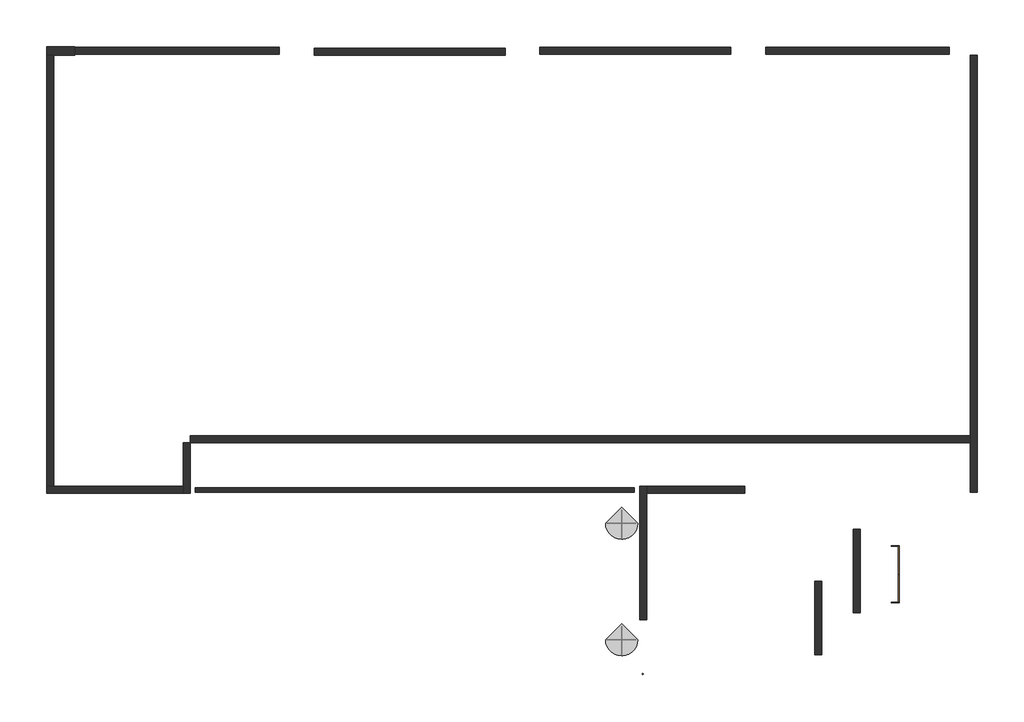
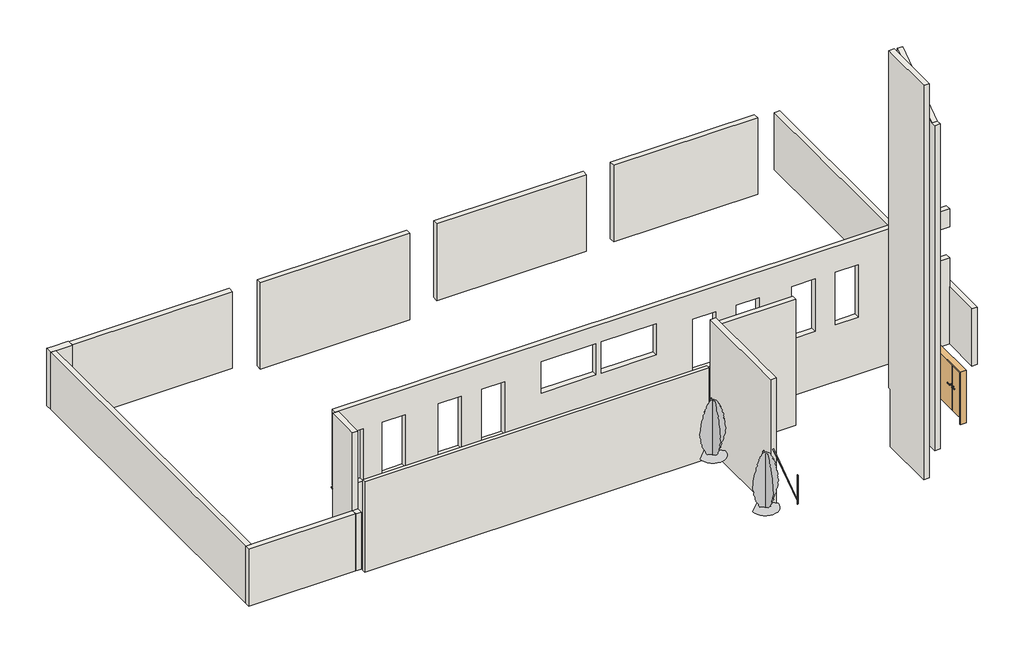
# One storey: 15 walls, 2 geographic elements, 2 proxies, 1 door.
"""IFC4 building model written with IfcOpenShell, lengths in millimetres."""

from ifc_helpers import new_model, si_unit, frame, origin, place, context, project, spatial, polyline, outline, extrude, faceted_brep, transform, mapped, element, save
from components import generic_models_c4b8308b, generic_models_6d567278, door_3436bc48, door_42131a66, geographic_element_770d22dd

model = new_model("IFC4")

# Units and contexts
model_context = context("Model", 3, world=origin())
ifc_project = project(units=[si_unit("LENGTHUNIT", "METRE", prefix="MILLI")], contexts=[model_context])

# Site, building, storey
site = spatial("IfcSite", under=ifc_project)
building = spatial("IfcBuilding", under=site)
storey = spatial("IfcBuildingStorey", under=building, Name="*設計GL2（現況地盤高）", Elevation=-1200.0)

# Proxies
placement = place(None, origin())
generic_models_shape = generic_models_c4b8308b(model_context)
element("IfcBuildingElementProxy", 1, Name="玄関手摺子2 : 玄関手摺子", ObjectType="玄関手摺子2 : 玄関手摺子", at=placement, inside=storey, context=model_context, shape_type="MappedRepresentation", body=[
    mapped(generic_models_shape, transform((854.8405988, 587.4496274, 0.0), x_axis=(1.0, 0.0, 0.0), y_axis=(0.0, 1.0, 0.0), z_axis=(0.0, 0.0, 1.0))),
])
generic_models_2_shape = generic_models_6d567278(model_context)
element("IfcBuildingElementProxy", 2, Name="玄関手摺3 : 玄関手摺", ObjectType="玄関手摺3 : 玄関手摺", at=placement, inside=storey, context=model_context, shape_type="MappedRepresentation", body=[
    mapped(generic_models_2_shape, transform((17290.0, 0.0, 90.0), x_axis=(1.0, 0.0, 0.0), y_axis=(0.0, 1.0, 0.0), z_axis=(0.0, 0.0, 1.0))),
])

# Door
door_shape = door_3436bc48(model_context)
door_2_shape = door_42131a66(model_context)
element("IfcDoor", 3, ObjectType="両開 : SD-3 w1600h2000", at=placement, inside=storey, context=model_context, shape_type="MappedRepresentation", body=[
    mapped(door_shape, transform((13554.3805905, -4769.7401342, -750.0), x_axis=(0.0, -1.0, 0.0), y_axis=(1.0, 0.0, 0.0), z_axis=(0.0, 0.0, 1.0))),
    mapped(door_2_shape, transform((13554.3805905, -4769.7401342, -750.0), x_axis=(0.0, -1.0, 0.0), y_axis=(1.0, 0.0, 0.0), z_axis=(0.0, 0.0, 1.0))),
])

# Geographic elements
geographic_element_shape = geographic_element_770d22dd(model_context)
element("IfcGeographicElement", 4, ObjectType="木 - 針葉樹 : イブキ - 2.14 メートル", at=placement, inside=storey, context=model_context, shape_type="MappedRepresentation", body=[
    mapped(geographic_element_shape, transform((5735.9114525, -3309.7401342, -600.0), x_axis=(1.0, 0.0, 0.0), y_axis=(0.0, 1.0, 0.0), z_axis=(0.0, 0.0, 1.0))),
])
element("IfcGeographicElement", 5, ObjectType="木 - 針葉樹 : イブキ - 2.14 メートル", at=placement, inside=storey, context=model_context, shape_type="MappedRepresentation", body=[
    mapped(geographic_element_shape, transform((5735.9114525, -6641.1153081, -600.0), x_axis=(1.0, 0.0, 0.0), y_axis=(0.0, 1.0, 0.0), z_axis=(0.0, 0.0, 1.0))),
])

# Walls
element("IfcWall", 6, ObjectType="(R)120", at=placement, inside=storey, context=model_context, shape_type="SweptSolid", body=[
    extrude(outline(polyline([(6104.3805905, -2419.7401342), (-6448.5682145, -2419.7401342), (-6448.5682145, -2299.7401342), (6104.3805905, -2299.7401342), (6104.3805905, -2419.7401342)])), frame((0.0, 0.0, -1400.0), z_axis=(0.0, 0.0, 1.0), x_axis=(1.0, 0.0, 0.0)), (0.0, 0.0, 1.0), 3500.0),
])
element("IfcWall", 7, ObjectType="(R)200", at=placement, inside=storey, context=model_context, shape_type="Brep", body=[
    faceted_brep([(15704.3805905, 10059.9866207, -1200.0), (15704.3805905, 8860.2598658, -1200.0), (15704.3805905, 8660.2598658, -1200.0), (15704.3805905, -809.7401342, -1200.0), (15704.3805905, -1009.7401342, -1200.0), (15704.3805905, -2419.7401342, -1200.0), (15704.3805905, -2419.7401342, 1000.0), (15704.3805905, 8660.2598658, 1000.0), (15704.3805905, 8860.2598658, 1000.0), (15704.3805905, 10059.9866207, 1000.0), (15904.3805905, 10059.9866207, -1200.0), (15904.3805905, 10059.9866207, 0.0), (15904.3805905, 10059.9866207, 1000.0), (15904.3805905, -2419.7401342, 1000.0), (15904.3805905, -2419.7401342, -1200.0)], [[[0, 1, 2, 3, 4, 5, 6, 7, 8, 9]], [[10, 11, 12, 13, 14]], [[5, 4, 3, 2, 1, 0, 10, 14]], [[6, 5, 14, 13]], [[9, 8, 7, 6, 13, 12]], [[0, 9, 12, 11, 10]]]),
])
element("IfcWall", 8, ObjectType="(R)200", at=placement, inside=storey, context=model_context, shape_type="Brep", body=[
    faceted_brep([(-6795.6194095, -2259.7401342, 1000.0), (-6795.6194095, -2259.7401342, -1200.0), (-10495.6194095, -2259.7401342, -1200.0), (-10695.6194095, -2259.7401342, -1200.0), (-10695.6194095, -2259.7401342, 1000.0), (-10495.6194095, -2259.7401342, 1000.0), (-6795.6194095, -2459.7401342, -1200.0), (-6795.6194095, -2459.7401342, -800.0), (-6795.6194095, -2459.7401342, 1000.0), (-10695.6194095, -2459.7401342, 1000.0), (-10695.6194095, -2459.7401342, -1200.0)], [[[0, 1, 2, 3, 4, 5]], [[6, 7, 8, 9, 10]], [[3, 2, 1, 6, 10]], [[0, 5, 4, 9, 8]], [[4, 3, 10, 9]], [[0, 8, 7, 6, 1]]]),
])
element("IfcWall", 9, ObjectType="(R)200", at=placement, inside=storey, context=model_context, shape_type="Brep", body=[
    faceted_brep([(15704.3805905, -809.7401342, -1200.0), (-6595.6194095, -809.7401342, -1200.0), (-6595.6194095, -809.7401342, 1060.0), (-6695.6194095, -809.7401342, 1060.0), (-6695.6194095, -809.7401342, 1100.0), (-6695.6194095, -809.7401342, 3460.0), (-6695.6194095, -809.7401342, 4000.0), (-3645.6194095, -809.7401342, 4000.0), (-3445.6194095, -809.7401342, 4000.0), (2804.3805905, -809.7401342, 4000.0), (3004.3805905, -809.7401342, 4000.0), (9254.3805905, -809.7401342, 4000.0), (9454.3805905, -809.7401342, 4000.0), (15704.3805905, -809.7401342, 4000.0), (15704.3805905, -809.7401342, 3320.0), (13704.3805905, -809.7401342, 3320.0), (13704.3805905, -809.7401342, 2120.0), (15704.3805905, -809.7401342, 2120.0), (5004.3805905, -809.7401342, 2120.0), (5004.3805905, -809.7401342, 3320.0), (3004.3805905, -809.7401342, 3320.0), (3004.3805905, -809.7401342, 2120.0), (10794.3805905, -809.7401342, 3020.0), (9954.3805905, -809.7401342, 3020.0), (9954.3805905, -809.7401342, 1000.0), (10794.3805905, -809.7401342, 1000.0), (11534.3805905, -809.7401342, 3020.0), (11534.3805905, -809.7401342, 1000.0), (12374.3805905, -809.7401342, 1000.0), (12374.3805905, -809.7401342, 3020.0), (7914.3805905, -809.7401342, 3020.0), (7914.3805905, -809.7401342, 1000.0), (8754.3805905, -809.7401342, 1000.0), (8754.3805905, -809.7401342, 3020.0), (6334.3805905, -809.7401342, 3020.0), (6334.3805905, -809.7401342, 1000.0), (7174.3805905, -809.7401342, 1000.0), (7174.3805905, -809.7401342, 3020.0), (2804.3805905, -809.7401342, 2120.0), (2804.3805905, -809.7401342, 3320.0), (804.3805905, -809.7401342, 3320.0), (804.3805905, -809.7401342, 2120.0), (-2105.6194095, -809.7401342, 3020.0), (-2945.6194095, -809.7401342, 3020.0), (-2945.6194095, -809.7401342, 1000.0), (-2105.6194095, -809.7401342, 1000.0), (-1365.6194095, -809.7401342, 3020.0), (-1365.6194095, -809.7401342, 1000.0), (-525.6194095, -809.7401342, 1000.0), (-525.6194095, -809.7401342, 3020.0), (-4985.6194095, -809.7401342, 3020.0), (-4985.6194095, -809.7401342, 1000.0), (-4145.6194095, -809.7401342, 1000.0), (-4145.6194095, -809.7401342, 3020.0), (-6515.6194095, -809.7401342, 3020.0), (-6515.6194095, -809.7401342, 1000.0), (-5675.6194095, -809.7401342, 1000.0), (-5675.6194095, -809.7401342, 3020.0), (-6595.6194095, -1009.7401342, -1200.0), (15704.3805905, -1009.7401342, -1200.0), (15704.3805905, -1009.7401342, 2120.0), (13704.3805905, -1009.7401342, 2120.0), (13704.3805905, -1009.7401342, 3320.0), (15704.3805905, -1009.7401342, 3320.0), (15704.3805905, -1009.7401342, 4000.0), (-6595.6194095, -1009.7401342, 4000.0), (-6695.6194095, -1009.7401342, 4000.0), (-6695.6194095, -1009.7401342, 1060.0), (-6595.6194095, -1009.7401342, 1060.0), (5004.3805905, -1009.7401342, 2120.0), (3004.3805905, -1009.7401342, 2120.0), (3004.3805905, -1009.7401342, 3320.0), (5004.3805905, -1009.7401342, 3320.0), (10794.3805905, -1009.7401342, 3020.0), (10794.3805905, -1009.7401342, 1000.0), (9954.3805905, -1009.7401342, 1000.0), (9954.3805905, -1009.7401342, 3020.0), (11534.3805905, -1009.7401342, 3020.0), (12374.3805905, -1009.7401342, 3020.0), (12374.3805905, -1009.7401342, 1000.0), (11534.3805905, -1009.7401342, 1000.0), (7914.3805905, -1009.7401342, 3020.0), (8754.3805905, -1009.7401342, 3020.0), (8754.3805905, -1009.7401342, 1000.0), (7914.3805905, -1009.7401342, 1000.0), (6334.3805905, -1009.7401342, 3020.0), (7174.3805905, -1009.7401342, 3020.0), (7174.3805905, -1009.7401342, 1000.0), (6334.3805905, -1009.7401342, 1000.0), (2804.3805905, -1009.7401342, 2120.0), (804.3805905, -1009.7401342, 2120.0), (804.3805905, -1009.7401342, 3320.0), (2804.3805905, -1009.7401342, 3320.0), (-2105.6194095, -1009.7401342, 3020.0), (-2105.6194095, -1009.7401342, 1000.0), (-2945.6194095, -1009.7401342, 1000.0), (-2945.6194095, -1009.7401342, 3020.0), (-1365.6194095, -1009.7401342, 3020.0), (-525.6194095, -1009.7401342, 3020.0), (-525.6194095, -1009.7401342, 1000.0), (-1365.6194095, -1009.7401342, 1000.0), (-4985.6194095, -1009.7401342, 3020.0), (-4145.6194095, -1009.7401342, 3020.0), (-4145.6194095, -1009.7401342, 1000.0), (-4985.6194095, -1009.7401342, 1000.0), (-6515.6194095, -1009.7401342, 3020.0), (-5675.6194095, -1009.7401342, 3020.0), (-5675.6194095, -1009.7401342, 1000.0), (-6515.6194095, -1009.7401342, 1000.0)], [[[0, 1, 2, 3, 4, 5, 6, 7, 8, 9, 10, 11, 12, 13, 14, 15, 16, 17], [18, 19, 20, 21], [22, 23, 24, 25], [26, 27, 28, 29], [30, 31, 32, 33], [34, 35, 36, 37], [38, 39, 40, 41], [42, 43, 44, 45], [46, 47, 48, 49], [50, 51, 52, 53], [54, 55, 56, 57]], [[58, 59, 60, 61, 62, 63, 64, 65, 66, 67, 68], [69, 70, 71, 72], [73, 74, 75, 76], [77, 78, 79, 80], [81, 82, 83, 84], [85, 86, 87, 88], [89, 90, 91, 92], [93, 94, 95, 96], [97, 98, 99, 100], [101, 102, 103, 104], [105, 106, 107, 108]], [[1, 0, 59, 58]], [[13, 12, 11, 10, 9, 8, 7, 6, 66, 65, 64]], [[13, 64, 63, 14]], [[59, 0, 17, 60]], [[67, 3, 2, 68]], [[2, 1, 58, 68]], [[3, 67, 66, 6, 5, 4]], [[62, 15, 14, 63]], [[15, 62, 61, 16]], [[16, 61, 60, 17]], [[19, 18, 69, 72]], [[20, 19, 72, 71]], [[21, 20, 71, 70]], [[18, 21, 70, 69]], [[74, 73, 22, 25]], [[75, 74, 25, 24]], [[76, 75, 24, 23]], [[73, 76, 23, 22]], [[27, 26, 77, 80]], [[28, 27, 80, 79]], [[29, 28, 79, 78]], [[26, 29, 78, 77]], [[31, 30, 81, 84]], [[32, 31, 84, 83]], [[33, 32, 83, 82]], [[30, 33, 82, 81]], [[35, 34, 85, 88]], [[36, 35, 88, 87]], [[37, 36, 87, 86]], [[34, 37, 86, 85]], [[39, 38, 89, 92]], [[40, 39, 92, 91]], [[41, 40, 91, 90]], [[38, 41, 90, 89]], [[94, 93, 42, 45]], [[95, 94, 45, 44]], [[96, 95, 44, 43]], [[93, 96, 43, 42]], [[47, 46, 97, 100]], [[48, 47, 100, 99]], [[49, 48, 99, 98]], [[46, 49, 98, 97]], [[51, 50, 101, 104]], [[52, 51, 104, 103]], [[53, 52, 103, 102]], [[50, 53, 102, 101]], [[55, 54, 105, 108]], [[56, 55, 108, 107]], [[57, 56, 107, 106]], [[54, 57, 106, 105]]]),
])
element("IfcWall", 10, ObjectType="(R)200", at=placement, inside=storey, context=model_context, shape_type="Brep", body=[
    faceted_brep([(-6595.6194095, -2459.7401342, 1000.0), (-6595.6194095, -2459.7401342, -1200.0), (-6595.6194095, -1009.7401342, -1200.0), (-6595.6194095, -1009.7401342, 4000.0), (-6595.6194095, -2259.7401342, 4000.0), (-6595.6194095, -2259.7401342, 1000.0), (-6795.6194095, -2459.7401342, -1200.0), (-6795.6194095, -2459.7401342, 1000.0), (-6795.6194095, -2259.7401342, 1000.0), (-6795.6194095, -2259.7401342, 4000.0), (-6795.6194095, -1009.7401342, 4000.0), (-6795.6194095, -1009.7401342, 1100.0), (-6795.6194095, -909.7401342, 1100.0), (-6795.6194095, -909.7401342, 1060.0), (-6795.6194095, -1009.7401342, 1060.0), (-6795.6194095, -1009.7401342, -1200.0), (-6795.6194095, -2259.7401342, -1200.0), (-6695.6194095, -1009.7401342, 4000.0), (-6745.6194095, -909.7401342, 1060.0), (-6695.6194095, -1009.7401342, 1060.0), (-6695.6194095, -1009.7401342, 1100.0), (-6745.6194095, -909.7401342, 1100.0)], [[[0, 1, 2, 3, 4, 5]], [[6, 7, 8, 9, 10, 11, 12, 13, 14, 15, 16]], [[2, 1, 6, 16, 15]], [[4, 3, 17, 10, 9]], [[5, 8, 7, 0]], [[0, 7, 6, 1]], [[5, 4, 9, 8]], [[13, 18, 19, 14]], [[11, 20, 21, 12]], [[19, 18, 21, 20]], [[18, 13, 12, 21]], [[2, 15, 14, 19, 20, 11, 10, 17, 3]]]),
])
element("IfcWall", 11, ObjectType="(R)200", at=placement, inside=storey, context=model_context, shape_type="Brep", body=[
    faceted_brep([(-10495.6194095, -2259.7401342, -1200.0), (-10495.6194095, 8660.2598658, -1200.0), (-10495.6194095, 8860.2598658, -1200.0), (-10495.6194095, 10059.9866207, -1200.0), (-10495.6194095, 10059.9866207, 1000.0), (-10495.6194095, 8860.2598658, 1000.0), (-10495.6194095, 8660.2598658, 1000.0), (-10495.6194095, -2259.7401342, 1000.0), (-10695.6194095, -2259.7401342, -1200.0), (-10695.6194095, -2259.7401342, 1000.0), (-10695.6194095, 10059.9866207, 1000.0), (-10695.6194095, 10059.9866207, -1200.0)], [[[0, 1, 2, 3, 4, 5, 6, 7]], [[8, 9, 10, 11]], [[3, 2, 1, 0, 8, 11]], [[7, 6, 5, 4, 10, 9]], [[0, 7, 9, 8]], [[4, 3, 11, 10]]]),
])
element("IfcWall", 12, ObjectType="(R)200", at=placement, inside=storey, context=model_context, shape_type="Brep", body=[
    faceted_brep([(12554.3805905, -5869.7401342, -1200.0), (12554.3805905, -3489.7401342, -1200.0), (12554.3805905, -3489.7401342, 950.0), (12554.3805905, -3489.7401342, 3800.0), (12554.3805905, -3489.7401342, 12869.8089432), (12554.3805905, -5693.6427736, 11331.2878013), (12554.3805905, -5869.7401342, 11331.2878013), (12354.3805905, -5869.7401342, -1200.0), (12354.3805905, -5869.7401342, 11331.2878013), (12354.3805905, -5693.6427736, 11331.2878013), (12354.3805905, -3489.7401342, 12869.8089432), (12354.3805905, -3489.7401342, -1200.0)], [[[0, 1, 2, 3, 4, 5, 6]], [[7, 8, 9, 10, 11]], [[1, 0, 7, 11]], [[5, 4, 10, 9]], [[6, 5, 9, 8]], [[0, 6, 8, 7]], [[4, 3, 2, 1, 11, 10]]]),
])
element("IfcWall", 13, ObjectType="(R)200", at=placement, inside=storey, context=model_context, shape_type="Brep", body=[
    faceted_brep([(6454.3805905, -6069.7401342, -1200.0), (6454.3805905, -2459.7401342, -1200.0), (6454.3805905, -2259.7401342, -1200.0), (6454.3805905, -2259.7401342, 3650.0), (6454.3805905, -2259.7401342, 3800.0), (6454.3805905, -4869.7401342, 3800.0), (6454.3805905, -5069.7401342, 3800.0), (6454.3805905, -6069.7401342, 3800.0), (6254.3805905, -6069.7401342, -1200.0), (6254.3805905, -6069.7401342, 3800.0), (6254.3805905, -2259.7401342, 3800.0), (6254.3805905, -2259.7401342, -1200.0)], [[[0, 1, 2, 3, 4, 5, 6, 7]], [[8, 9, 10, 11]], [[2, 1, 0, 8, 11]], [[7, 6, 5, 4, 10, 9]], [[0, 7, 9, 8]], [[4, 3, 2, 11, 10]]]),
])
element("IfcWall", 14, ObjectType="(R)200", at=placement, inside=storey, context=model_context, shape_type="Brep", body=[
    faceted_brep([(6454.3805905, -2459.7401342, -1200.0), (9254.3805905, -2459.7401342, -1200.0), (9254.3805905, -2459.7401342, 3650.0), (6454.3805905, -2459.7401342, 3650.0), (6454.3805905, -2259.7401342, -1200.0), (6454.3805905, -2259.7401342, 3650.0), (9254.3805905, -2259.7401342, 3650.0), (9254.3805905, -2259.7401342, 0.0), (9254.3805905, -2259.7401342, -1200.0)], [[[0, 1, 2, 3]], [[4, 5, 6, 7, 8]], [[1, 0, 4, 8]], [[3, 2, 6, 5]], [[0, 3, 5, 4]], [[2, 1, 8, 7, 6]]]),
])
element("IfcWall", 15, ObjectType="(R)200", at=placement, inside=storey, context=model_context, shape_type="Brep", body=[
    faceted_brep([(11254.3805905, -4969.7401342, -1200.0), (11254.3805905, -7069.7401342, -1200.0), (11254.3805905, -7069.7401342, 14000.0), (11254.3805905, -5069.7401342, 14000.0), (11254.3805905, -4869.7401342, 14000.0), (11254.3805905, -4869.7401342, 13350.0), (11254.3805905, -4869.7401342, 1000.0), (11254.3805905, -4969.7401342, 1000.0), (11254.3805905, -4969.7401342, -704.6786644), (11454.3805905, -4969.7401342, -1200.0), (11454.3805905, -4969.7401342, -704.6786644), (11454.3805905, -4969.7401342, 1000.0), (11454.3805905, -4869.7401342, 1000.0), (11454.3805905, -4869.7401342, 13350.0), (11454.3805905, -4869.7401342, 14000.0), (11454.3805905, -7069.7401342, 14000.0), (11454.3805905, -7069.7401342, 1000.0), (11454.3805905, -7069.7401342, -1200.0)], [[[0, 1, 2, 3, 4, 5, 6, 7, 8]], [[9, 10, 11, 12, 13, 14, 15, 16, 17]], [[1, 0, 9, 17]], [[4, 3, 2, 15, 14]], [[0, 8, 7, 11, 10, 9]], [[6, 12, 11, 7]], [[4, 14, 13, 12, 6, 5]], [[1, 17, 16, 15, 2]]]),
])
element("IfcWall", 16, ObjectType="(R)200", at=placement, inside=storey, context=model_context, shape_type="SweptSolid", body=[
    extrude(outline(polyline([(-4045.6194095, 10084.9866207), (-9895.6194095, 10084.9866207), (-9895.6194095, 10284.9866207), (-4045.6194095, 10284.9866207), (-4045.6194095, 10084.9866207)])), frame((0.0, 0.0, -1950.0), z_axis=(0.0, 0.0, 1.0), x_axis=(1.0, 0.0, 0.0)), (0.0, 0.0, 1.0), 2950.0),
])
element("IfcWall", 17, ObjectType="(R)200", at=placement, inside=storey, context=model_context, shape_type="SweptSolid", body=[
    extrude(outline(polyline([(8854.3805905, 10084.9866207), (3404.3805905, 10084.9866207), (3404.3805905, 10284.9866207), (8854.3805905, 10284.9866207), (8854.3805905, 10084.9866207)])), frame((0.0, 0.0, -1950.0), z_axis=(0.0, 0.0, 1.0), x_axis=(1.0, 0.0, 0.0)), (0.0, 0.0, 1.0), 2950.0),
])
element("IfcWall", 18, ObjectType="(R)200", at=placement, inside=storey, context=model_context, shape_type="SweptSolid", body=[
    extrude(outline(polyline([(15104.3805905, 10084.9866207), (9854.3805905, 10084.9866207), (9854.3805905, 10284.9866207), (15104.3805905, 10284.9866207), (15104.3805905, 10084.9866207)])), frame((0.0, 0.0, -1950.0), z_axis=(0.0, 0.0, 1.0), x_axis=(1.0, 0.0, 0.0)), (0.0, 0.0, 1.0), 2950.0),
])
element("IfcWall", 19, ObjectType="(R)200", at=placement, inside=storey, context=model_context, shape_type="Brep", body=[
    faceted_brep([(-3045.6194095, 10059.9866207, -2322.346974), (2404.3805905, 10059.9866207, -2322.346974), (2404.3805905, 10059.9866207, 0.0), (2404.3805905, 10059.9866207, 1000.0), (-3045.6194095, 10059.9866207, 1000.0), (-3045.6194095, 10059.9866207, 0.0), (-3045.6194095, 10259.9866207, -2322.346974), (-3045.6194095, 10259.9866207, 1000.0), (2404.3805905, 10259.9866207, 1000.0), (2404.3805905, 10259.9866207, -2322.346974)], [[[0, 1, 2, 3, 4, 5]], [[6, 7, 8, 9]], [[1, 0, 6, 9]], [[3, 2, 1, 9, 8]], [[4, 3, 8, 7]], [[0, 5, 4, 7, 6]]]),
])
element("IfcWall", 20, ObjectType="(R)250", at=placement, inside=storey, context=model_context, shape_type="Brep", body=[
    faceted_brep([(-10695.6194095, 10059.9866207, -1200.0), (-10495.6194095, 10059.9866207, -1200.0), (-9895.6194095, 10059.9866207, -1200.0), (-9895.6194095, 10059.9866207, 1000.0), (-10495.6194095, 10059.9866207, 1000.0), (-10695.6194095, 10059.9866207, 1000.0), (-10695.6194095, 10309.9866207, -1200.0), (-10695.6194095, 10309.9866207, 1000.0), (-10495.6194095, 10309.9866207, 1000.0), (-9895.6194095, 10309.9866207, 1000.0), (-9895.6194095, 10309.9866207, -1200.0), (-9895.6194095, 10284.9866207, 1000.0), (-9895.6194095, 10084.9866207, 1000.0)], [[[0, 1, 2, 3, 4, 5]], [[6, 7, 8, 9, 10]], [[2, 1, 0, 6, 10]], [[3, 2, 10, 9, 11, 12]], [[5, 4, 3, 12, 11, 9, 8, 7]], [[0, 5, 7, 6]]]),
])

save(model, "model.ifc")
